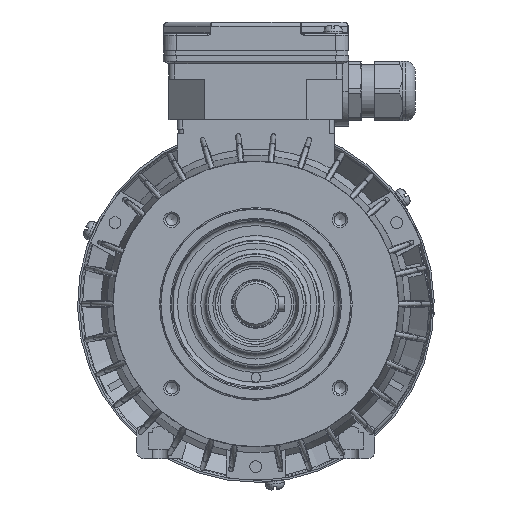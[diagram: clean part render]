
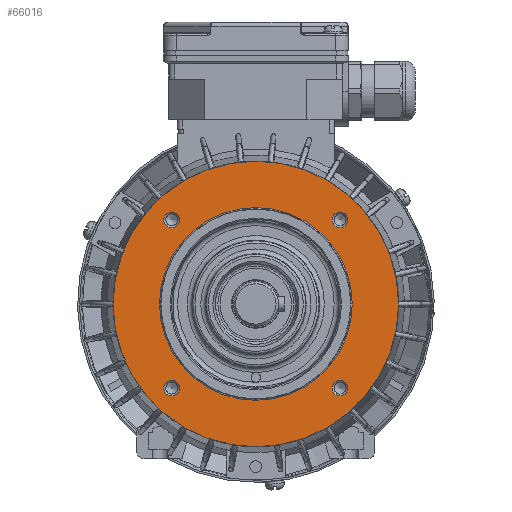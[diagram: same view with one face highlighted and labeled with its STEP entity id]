
A CAD part, left-side view. The second image highlights one B-rep face of the part: STEP entity #66016.
In plain terms, the highlighted planar face has unit normal (-1, 0, 0).
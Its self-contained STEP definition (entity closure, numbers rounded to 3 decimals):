
#16785=ORIENTED_EDGE('',*,*,#28274,.T.);
#16786=ORIENTED_EDGE('',*,*,#28273,.T.);
#16787=ORIENTED_EDGE('',*,*,#28272,.T.);
#16788=ORIENTED_EDGE('',*,*,#28271,.T.);
#16789=ORIENTED_EDGE('',*,*,#28270,.T.);
#16790=ORIENTED_EDGE('',*,*,#28295,.T.);
#28270=EDGE_CURVE('',#34574,#34574,#38312,.F.);
#28271=EDGE_CURVE('',#34575,#34575,#38313,.F.);
#28272=EDGE_CURVE('',#34576,#34576,#38314,.F.);
#28273=EDGE_CURVE('',#34577,#34577,#38315,.F.);
#28274=EDGE_CURVE('',#34578,#34578,#38316,.F.);
#28295=EDGE_CURVE('',#34599,#34599,#38325,.T.);
#34574=VERTEX_POINT('',#92572);
#34575=VERTEX_POINT('',#92575);
#34576=VERTEX_POINT('',#92578);
#34577=VERTEX_POINT('',#92581);
#34578=VERTEX_POINT('',#92584);
#34599=VERTEX_POINT('',#92719);
#38312=CIRCLE('',#69774,40.5);
#38313=CIRCLE('',#69776,3.3);
#38314=CIRCLE('',#69778,3.3);
#38315=CIRCLE('',#69780,3.3);
#38316=CIRCLE('',#69782,3.3);
#38325=CIRCLE('',#69796,60.);
#40723=EDGE_LOOP('',(#16785));
#40724=EDGE_LOOP('',(#16786));
#40725=EDGE_LOOP('',(#16787));
#40726=EDGE_LOOP('',(#16788));
#40727=EDGE_LOOP('',(#16789));
#40728=EDGE_LOOP('',(#16790));
#44009=FACE_BOUND('',#40723,.T.);
#44010=FACE_BOUND('',#40724,.T.);
#44011=FACE_BOUND('',#40725,.T.);
#44012=FACE_BOUND('',#40726,.T.);
#44013=FACE_BOUND('',#40727,.T.);
#44014=FACE_BOUND('',#40728,.T.);
#46471=PLANE('',#69795);
#66016=ADVANCED_FACE('',(#44009,#44010,#44011,#44012,#44013,#44014),#46471,
 .T.);
#69774=AXIS2_PLACEMENT_3D('',#92571,#78565,#78566);
#69776=AXIS2_PLACEMENT_3D('',#92574,#78569,#78570);
#69778=AXIS2_PLACEMENT_3D('',#92577,#78573,#78574);
#69780=AXIS2_PLACEMENT_3D('',#92580,#78577,#78578);
#69782=AXIS2_PLACEMENT_3D('',#92583,#78581,#78582);
#69795=AXIS2_PLACEMENT_3D('',#92717,#78615,#78616);
#69796=AXIS2_PLACEMENT_3D('',#92718,#78617,#78618);
#78565=DIRECTION('',(-1.,0.,0.));
#78566=DIRECTION('',(0.,0.,-1.));
#78569=DIRECTION('',(-1.,0.,0.));
#78570=DIRECTION('',(0.,0.,-1.));
#78573=DIRECTION('',(-1.,0.,0.));
#78574=DIRECTION('',(0.,0.,-1.));
#78577=DIRECTION('',(-1.,0.,0.));
#78578=DIRECTION('',(0.,0.,-1.));
#78581=DIRECTION('',(-1.,0.,0.));
#78582=DIRECTION('',(0.,0.,-1.));
#78615=DIRECTION('',(-1.,0.,0.));
#78616=DIRECTION('',(0.,0.,-1.));
#78617=DIRECTION('',(-1.,0.,0.));
#78618=DIRECTION('',(0.,0.,-1.));
#92571=CARTESIAN_POINT('',(-44.3,0.,0.));
#92572=CARTESIAN_POINT('',(-44.3,0.,-40.5));
#92574=CARTESIAN_POINT('',(-44.3,35.355,35.355));
#92575=CARTESIAN_POINT('',(-44.3,35.355,32.055));
#92577=CARTESIAN_POINT('',(-44.3,-35.355,35.355));
#92578=CARTESIAN_POINT('',(-44.3,-35.355,32.055));
#92580=CARTESIAN_POINT('',(-44.3,-35.355,-35.355));
#92581=CARTESIAN_POINT('',(-44.3,-35.355,-38.655));
#92583=CARTESIAN_POINT('',(-44.3,35.355,-35.355));
#92584=CARTESIAN_POINT('',(-44.3,35.355,-38.655));
#92717=CARTESIAN_POINT('',(-44.3,0.,40.));
#92718=CARTESIAN_POINT('',(-44.3,0.,0.));
#92719=CARTESIAN_POINT('',(-44.3,0.,-60.));
